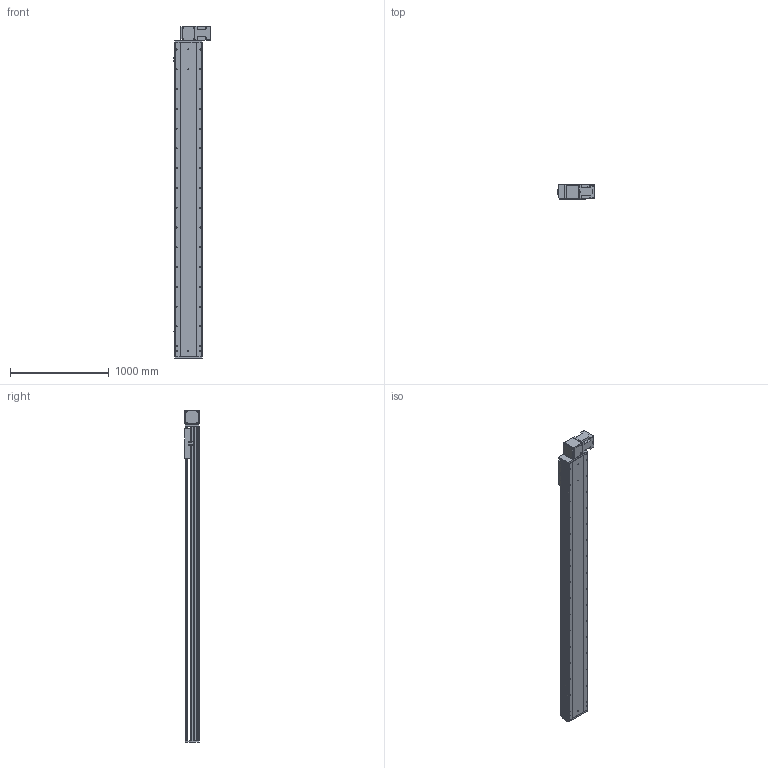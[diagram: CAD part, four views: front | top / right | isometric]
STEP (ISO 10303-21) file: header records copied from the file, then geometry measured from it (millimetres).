
FILE_DESCRIPTION (( 'STEP AP214' ), '1' );
FILE_NAME ('RTB28S-XX-2750-BL-M100-XX-C4.STEP', '2025-12-22T02:35:13', ( '' ), ( '' ), 'SwSTEP 2.0', 'SolidWorks 2018', '' );
FILE_SCHEMA (( 'AUTOMOTIVE_DESIGN' ));
Length unit declared in the file: millimetre
Products named in the file (4): RTB28S-XX-2750-BL-M100-XX-C4; RTB28S-GY-011^RTB28S-XX-XX-BL-M100-XX-C4; RTB28S-GY-004^RTB28S-XX-XX-BL-M100-XX-C4; RTB28S-GY-008^RTB28S-XX-XX-BL-M100-XX-C4
Assembly tree (3 placements, depth 2):
  RTB28S-XX-2750-BL-M100-XX-C4
    RTB28S-GY-011^RTB28S-XX-XX-BL-M100-XX-C4
    RTB28S-GY-004^RTB28S-XX-XX-BL-M100-XX-C4
    RTB28S-GY-008^RTB28S-XX-XX-BL-M100-XX-C4
Bounding box: 380.7 x 145 x 3357 mm (x, y, z)
Volume: 57166770.2 mm3; surface area: 5349825.4 mm2
Topology: 3 solids, 4 shells, 878 faces, 2358 edges, 1508 vertices
Faces by surface type: cylinder 431, plane 363, cone 80, torus 4
Entity records: 33887 total; most frequent: CARTESIAN_POINT 6352, DIRECTION 5016, ORIENTED_EDGE 4652, EDGE_CURVE 2326, AXIS2_PLACEMENT_3D 1848, VERTEX_POINT 1508, VECTOR 1320, LINE 1320
